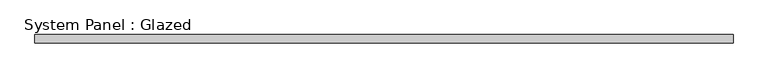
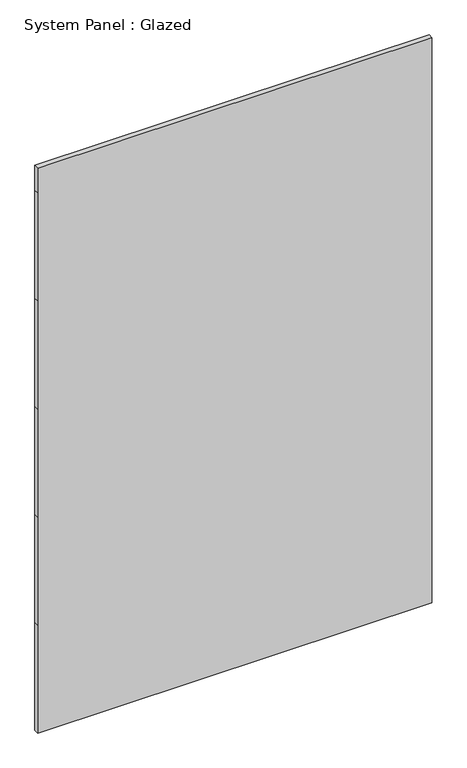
"""IFC4 building model written with IfcOpenShell, lengths in millimetres: plate geometry, System Panel : Glazed."""

from ifc_helpers import new_model, si_unit, frame, origin, place, context, project, spatial, polyline, outline, extrude, source, transform, mapped, element, save


def system_panel_glazed_82a64896(model_context):
    return source(origin(), model_context, "Body", "SweptSolid", [
        extrude(outline(polyline([(0.0, -1052.2857143), (0.0, 1052.2857143), (609.6, 1052.2857143), (1219.2, 1052.2857143), (1828.8, 1052.2857143), (2438.4, 1052.2857143), (3048.0, 1052.2857143), (3187.5604781, 1052.2857143), (3187.5604781, -1052.2857143), (3048.0, -1052.2857143), (2438.4, -1052.2857143), (1828.8, -1052.2857143), (1219.2, -1052.2857143), (609.6, -1052.2857143), (0.0, -1052.2857143)])), frame((0.0, 19.05, 0.0), z_axis=(0.0, 1.0, 0.0), x_axis=(0.0, 0.0, 1.0)), (0.0, 0.0, 1.0), 25.4),
    ])


if __name__ == "__main__":
    model = new_model("IFC4")
    model_context = context("Model", 3, world=origin())
    ifc_project = project(units=[si_unit("LENGTHUNIT", "METRE", prefix="MILLI")], contexts=[model_context])
    site = spatial("IfcSite", under=ifc_project)
    building = spatial("IfcBuilding", under=site)
    placement = place(None, origin())
    system_panel_glazed_shape = system_panel_glazed_82a64896(model_context)
    element("IfcPlate", 1, ObjectType="System Panel : Glazed", at=placement, inside=building, context=model_context, shape_type="MappedRepresentation", body=[
        mapped(system_panel_glazed_shape, transform((0.0, 0.0, 0.0), x_axis=(1.0, 0.0, 0.0), y_axis=(0.0, 1.0, 0.0), z_axis=(0.0, 0.0, 1.0))),
    ])
    save(model, "model.ifc")
